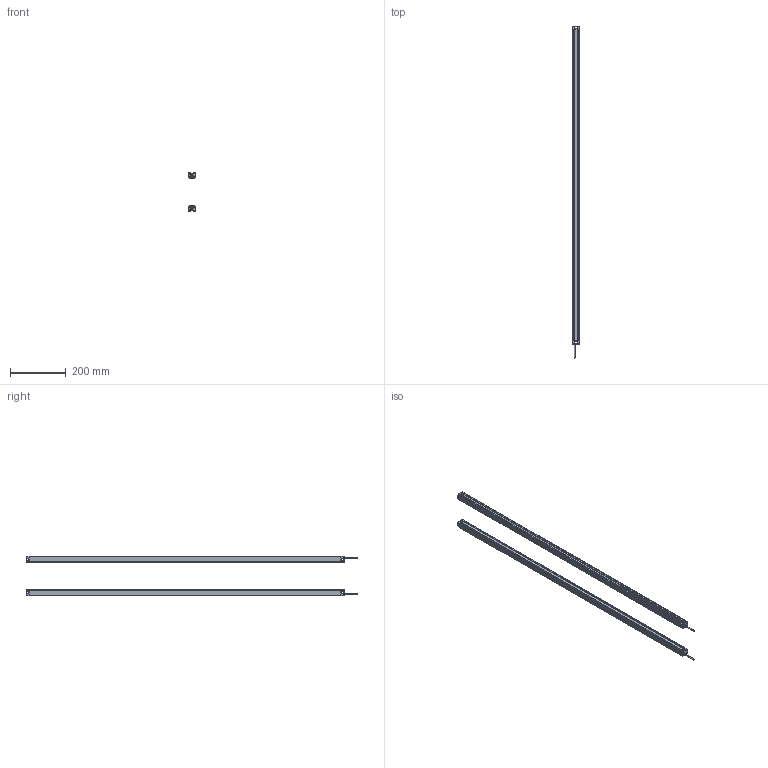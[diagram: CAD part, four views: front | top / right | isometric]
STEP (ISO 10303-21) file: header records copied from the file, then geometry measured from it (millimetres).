
FILE_DESCRIPTION (( 'STEP AP214' ), '1' );
FILE_NAME ('MTC5620.STEP', '2022-08-02T09:07:56', ( '' ), ( '' ), 'SwSTEP 2.0', 'SolidWorks 2018', '' );
FILE_SCHEMA (( 'AUTOMOTIVE_DESIGN' ));
Length unit declared in the file: millimetre
Products named in the file (5): MTC5620; 噩砃P02^MTC; P01^MTC; MTC waike^MTC; P02^MTC
Assembly tree (6 placements, depth 2):
  MTC5620
    MTC waike^MTC  x2
    P01^MTC  x2
    P02^MTC
    噩砃P02^MTC
Bounding box: 25 x 1192 x 141.4 mm (x, y, z)
Volume: 375216.7 mm3; surface area: 520899.3 mm2
Topology: 8 solids, 8 shells, 480 faces, 1396 edges, 924 vertices
Faces by surface type: plane 272, cylinder 208
Entity records: 10886 total; most frequent: DIRECTION 1881, CARTESIAN_POINT 1878, ORIENTED_EDGE 1846, EDGE_CURVE 923, AXIS2_PLACEMENT_3D 637, VERTEX_POINT 610, LINE 607, VECTOR 607
